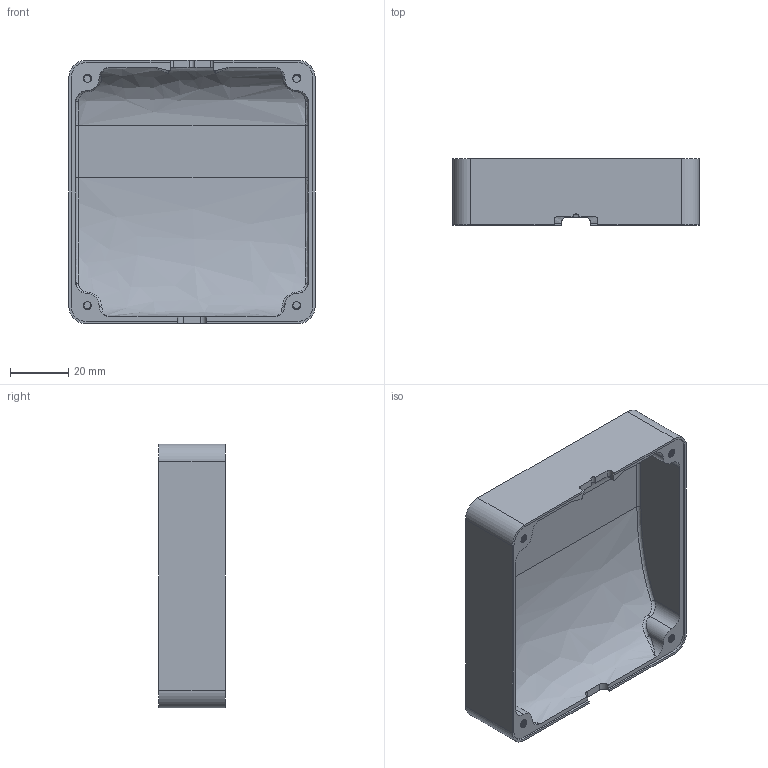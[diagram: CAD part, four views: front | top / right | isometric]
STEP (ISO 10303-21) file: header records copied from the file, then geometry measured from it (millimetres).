
FILE_DESCRIPTION(/* description */ (''),/* implementation_level */ '2;1');
FILE_NAME(/* name */ 'HEATER 2 FAN BACK PANEL.step',/* time_stamp */ '2024-02-28T17:35:51Z',/* author */ (''),/* organization */ (''),/* preprocessor_version */ 'ST-DEVELOPER v20',/* originating_system */ 'Autodesk Translation Framework v12.20.1.177',/* authorisation */ '');
FILE_SCHEMA (('AUTOMOTIVE_DESIGN { 1 0 10303 214 3 1 1 }'));
Length unit declared in the file: millimetre
Products named in the file (1): HEATER  2 FAN BACK PANEL
Bounding box: 84.8 x 22.8 x 90.8 mm (x, y, z)
Volume: 55387.7 mm3; surface area: 28797.8 mm2
Topology: 1 solids, 1 shells, 418 faces, 1216 edges, 800 vertices
Faces by surface type: cylinder 357, plane 31, bspline 30
Full cylindrical faces by diameter (mm): 2.529 x80, 3.086 x44
Entity records: 32628 total; most frequent: CARTESIAN_POINT 23049, ORIENTED_EDGE 2424, DIRECTION 1333, EDGE_CURVE 1212, VERTEX_POINT 800, B_SPLINE_CURVE_WITH_KNOTS 726, AXIS2_PLACEMENT_3D 458, EDGE_LOOP 422
